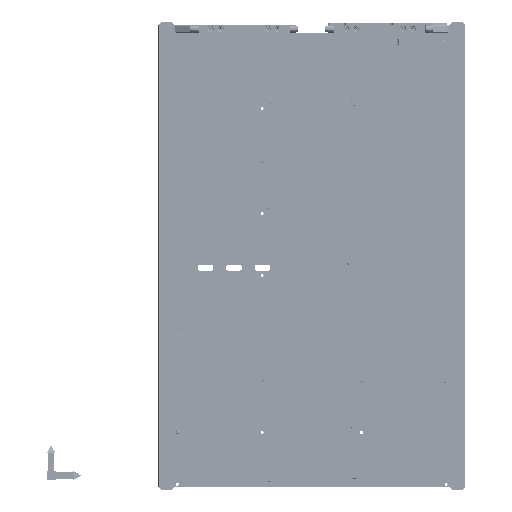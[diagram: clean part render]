
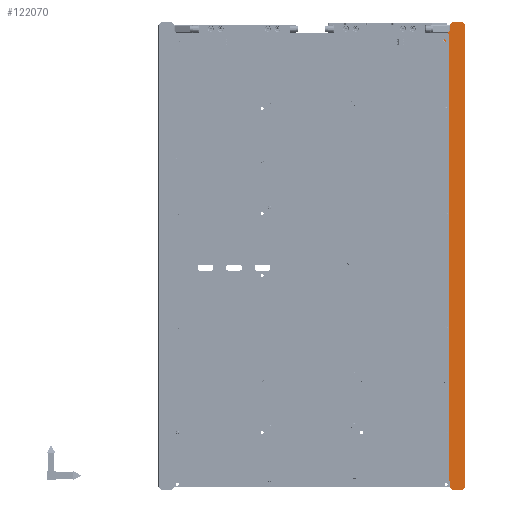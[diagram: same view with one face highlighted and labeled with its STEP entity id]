
A CAD part, front view. The second image highlights one B-rep face of the part: STEP entity #122070.
In plain terms, the highlighted planar face has unit normal (0, -1, 0).
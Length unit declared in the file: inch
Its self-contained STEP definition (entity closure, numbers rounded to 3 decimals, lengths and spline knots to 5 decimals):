
#13377 = VERTEX_POINT ( 'NONE', #328795 ) ;
#41864 = VERTEX_POINT ( 'NONE', #435685 ) ;
#42637 = DIRECTION ( 'NONE',  ( 1., 0., 0. ) ) ;
#44660 = DIRECTION ( 'NONE',  ( 0., -1., 0. ) ) ;
#46759 = CARTESIAN_POINT ( 'NONE',  ( 4.23622, 0., 6.96555 ) ) ;
#47928 = LINE ( 'NONE', #384273, #722709 ) ;
#69368 = ORIENTED_EDGE ( 'NONE', *, *, #140113, .F. ) ;
#78641 = CARTESIAN_POINT ( 'NONE',  ( 3.57874, 0., 6.84055 ) ) ;
#108656 = CIRCLE ( 'NONE', #181431, 0.125 ) ;
#118240 = VERTEX_POINT ( 'NONE', #78641 ) ;
#120825 = VERTEX_POINT ( 'NONE', #406234 ) ;
#122070 = ADVANCED_FACE ( 'NONE', ( #249959 ), #189670, .F. ) ;
#122776 = ORIENTED_EDGE ( 'NONE', *, *, #279407, .F. ) ;
#137634 = CARTESIAN_POINT ( 'NONE',  ( 4.62992, 0., -7.1852 ) ) ;
#140113 = EDGE_CURVE ( 'NONE', #747921, #523725, #267652, .T. ) ;
#145376 = VECTOR ( 'NONE', #585326, 39.37008 ) ;
#149621 = VERTEX_POINT ( 'NONE', #527049 ) ;
#157977 = CARTESIAN_POINT ( 'NONE',  ( 4.69685, 0., 7.11827 ) ) ;
#159996 = CARTESIAN_POINT ( 'NONE',  ( 4.62992, 0., 7.1852 ) ) ;
#165338 = ORIENTED_EDGE ( 'NONE', *, *, #324335, .F. ) ;
#177553 = VERTEX_POINT ( 'NONE', #46759 ) ;
#181431 = AXIS2_PLACEMENT_3D ( 'NONE', #346683, #833594, #416847 ) ;
#188255 = EDGE_CURVE ( 'NONE', #725481, #544133, #194235, .T. ) ;
#188468 = DIRECTION ( 'NONE',  ( 0.707, 0., -0.707 ) ) ;
#189670 = PLANE ( 'NONE',  #372926 ) ;
#189767 = CARTESIAN_POINT ( 'NONE',  ( 3.57874, 0., -6.84055 ) ) ;
#190037 = EDGE_CURVE ( 'NONE', #177553, #149621, #374110, .T. ) ;
#194235 = CIRCLE ( 'NONE', #731824, 0.62992 ) ;
#195624 = DIRECTION ( 'NONE',  ( 0., 1., 0. ) ) ;
#196626 = CARTESIAN_POINT ( 'NONE',  ( -4.70866, 0., 6.84055 ) ) ;
#208300 = ORIENTED_EDGE ( 'NONE', *, *, #740119, .F. ) ;
#216225 = DIRECTION ( 'NONE',  ( -0.707, 0., 0.707 ) ) ;
#228110 = VECTOR ( 'NONE', #683441, 39.37008 ) ;
#236444 = CARTESIAN_POINT ( 'NONE',  ( 4.23622, 0., 6.84055 ) ) ;
#241159 = LINE ( 'NONE', #703047, #426328 ) ;
#243225 = CARTESIAN_POINT ( 'NONE',  ( 4.23622, 0., -6.96555 ) ) ;
#246549 = EDGE_CURVE ( 'NONE', #621708, #544133, #669236, .T. ) ;
#249959 = FACE_OUTER_BOUND ( 'NONE', #551726, .T. ) ;
#253733 = LINE ( 'NONE', #893636, #417086 ) ;
#260150 = CARTESIAN_POINT ( 'NONE',  ( 4.11122, 0., 6.96555 ) ) ;
#267652 = LINE ( 'NONE', #675224, #844776 ) ;
#274789 = ORIENTED_EDGE ( 'NONE', *, *, #455147, .F. ) ;
#279407 = EDGE_CURVE ( 'NONE', #295504, #511000, #824519, .T. ) ;
#295504 = VERTEX_POINT ( 'NONE', #525285 ) ;
#308490 = CARTESIAN_POINT ( 'NONE',  ( 4.23622, 0., 6.84055 ) ) ;
#317661 = ORIENTED_EDGE ( 'NONE', *, *, #679119, .F. ) ;
#320437 = VERTEX_POINT ( 'NONE', #505299 ) ;
#321003 = ORIENTED_EDGE ( 'NONE', *, *, #246549, .T. ) ;
#324335 = EDGE_CURVE ( 'NONE', #523725, #295504, #253733, .T. ) ;
#328795 = CARTESIAN_POINT ( 'NONE',  ( 4.11122, 0., -6.84055 ) ) ;
#330139 = DIRECTION ( 'NONE',  ( 0., 0., -1. ) ) ;
#330425 = CIRCLE ( 'NONE', #413273, 0.125 ) ;
#335212 = DIRECTION ( 'NONE',  ( 0., 0., -1. ) ) ;
#342055 = VERTEX_POINT ( 'NONE', #438540 ) ;
#343597 = EDGE_CURVE ( 'NONE', #41864, #120825, #241159, .T. ) ;
#346683 = CARTESIAN_POINT ( 'NONE',  ( 4.11122, 0., -6.96555 ) ) ;
#363410 = ORIENTED_EDGE ( 'NONE', *, *, #760470, .F. ) ;
#367584 = EDGE_CURVE ( 'NONE', #725481, #13377, #809199, .T. ) ;
#372926 = AXIS2_PLACEMENT_3D ( 'NONE', #612331, #195624, #682444 ) ;
#374110 = LINE ( 'NONE', #308490, #145376 ) ;
#374698 = VECTOR ( 'NONE', #793310, 39.37008 ) ;
#384273 = CARTESIAN_POINT ( 'NONE',  ( -4.70866, 0., -7.1852 ) ) ;
#390569 = CARTESIAN_POINT ( 'NONE',  ( 3.57874, 0., 6.21063 ) ) ;
#392463 = CARTESIAN_POINT ( 'NONE',  ( -4.70866, 0., -6.84055 ) ) ;
#396554 = LINE ( 'NONE', #236444, #374698 ) ;
#398446 = DIRECTION ( 'NONE',  ( 0.707, 0., 0.707 ) ) ;
#400956 = LINE ( 'NONE', #693176, #607856 ) ;
#406234 = CARTESIAN_POINT ( 'NONE',  ( 4.23622, 0., -7.10646 ) ) ;
#413273 = AXIS2_PLACEMENT_3D ( 'NONE', #260150, #746984, #330139 ) ;
#414436 = ORIENTED_EDGE ( 'NONE', *, *, #675728, .F. ) ;
#415076 = EDGE_CURVE ( 'NONE', #13377, #445415, #108656, .T. ) ;
#416847 = DIRECTION ( 'NONE',  ( 0., 0., -1. ) ) ;
#417086 = VECTOR ( 'NONE', #683862, 39.37008 ) ;
#417233 = VECTOR ( 'NONE', #42637, 39.37008 ) ;
#426328 = VECTOR ( 'NONE', #216225, 39.37008 ) ;
#435685 = CARTESIAN_POINT ( 'NONE',  ( 4.31496, 0., -7.1852 ) ) ;
#438540 = CARTESIAN_POINT ( 'NONE',  ( 4.11122, 0., 6.84055 ) ) ;
#445415 = VERTEX_POINT ( 'NONE', #243225 ) ;
#455147 = EDGE_CURVE ( 'NONE', #342055, #177553, #330425, .T. ) ;
#458064 = LINE ( 'NONE', #605314, #621192 ) ;
#460502 = DIRECTION ( 'NONE',  ( 1., 0., 0. ) ) ;
#461406 = CARTESIAN_POINT ( 'NONE',  ( 3.57874, 0., -6.21063 ) ) ;
#470389 = ORIENTED_EDGE ( 'NONE', *, *, #190037, .F. ) ;
#472972 = ORIENTED_EDGE ( 'NONE', *, *, #560039, .F. ) ;
#478122 = DIRECTION ( 'NONE',  ( -0.707, 0., -0.707 ) ) ;
#505299 = CARTESIAN_POINT ( 'NONE',  ( 4.31496, 0., 7.1852 ) ) ;
#510459 = ORIENTED_EDGE ( 'NONE', *, *, #415076, .T. ) ;
#511000 = VERTEX_POINT ( 'NONE', #137634 ) ;
#523725 = VERTEX_POINT ( 'NONE', #157977 ) ;
#525285 = CARTESIAN_POINT ( 'NONE',  ( 4.69685, 0., -7.11827 ) ) ;
#527049 = CARTESIAN_POINT ( 'NONE',  ( 4.23622, 0., 7.10646 ) ) ;
#527752 = VECTOR ( 'NONE', #335212, 39.37008 ) ;
#531321 = DIRECTION ( 'NONE',  ( -1., 0., 0. ) ) ;
#542697 = ORIENTED_EDGE ( 'NONE', *, *, #367584, .T. ) ;
#544133 = VERTEX_POINT ( 'NONE', #681967 ) ;
#551726 = EDGE_LOOP ( 'NONE', ( #317661, #470389, #274789, #559390, #472972, #321003, #800291, #542697, #510459, #414436, #752211, #208300, #122776, #165338, #69368, #363410 ) ) ;
#559390 = ORIENTED_EDGE ( 'NONE', *, *, #690202, .F. ) ;
#560039 = EDGE_CURVE ( 'NONE', #621708, #118240, #689077, .T. ) ;
#577185 = CARTESIAN_POINT ( 'NONE',  ( 4.20866, 0., 6.21063 ) ) ;
#585326 = DIRECTION ( 'NONE',  ( 0., 0., 1. ) ) ;
#598269 = LINE ( 'NONE', #196626, #228110 ) ;
#605314 = CARTESIAN_POINT ( 'NONE',  ( 4.23622, 0., 7.10646 ) ) ;
#607856 = VECTOR ( 'NONE', #623079, 39.37008 ) ;
#612331 = CARTESIAN_POINT ( 'NONE',  ( -4.70866, 0., 6.84055 ) ) ;
#620554 = AXIS2_PLACEMENT_3D ( 'NONE', #390569, #877311, #460502 ) ;
#621192 = VECTOR ( 'NONE', #398446, 39.37008 ) ;
#621708 = VERTEX_POINT ( 'NONE', #577185 ) ;
#623079 = DIRECTION ( 'NONE',  ( 1., 0., 0. ) ) ;
#669236 = LINE ( 'NONE', #822009, #527752 ) ;
#675224 = CARTESIAN_POINT ( 'NONE',  ( 4.62992, 0., 7.1852 ) ) ;
#675728 = EDGE_CURVE ( 'NONE', #120825, #445415, #396554, .T. ) ;
#679119 = EDGE_CURVE ( 'NONE', #149621, #320437, #458064, .T. ) ;
#681967 = CARTESIAN_POINT ( 'NONE',  ( 4.20866, 0., -6.21063 ) ) ;
#682125 = CARTESIAN_POINT ( 'NONE',  ( 4.69685, 0., -7.11827 ) ) ;
#682444 = DIRECTION ( 'NONE',  ( -1., 0., 0. ) ) ;
#683441 = DIRECTION ( 'NONE',  ( 1., 0., 0. ) ) ;
#683862 = DIRECTION ( 'NONE',  ( 0., 0., -1. ) ) ;
#689077 = CIRCLE ( 'NONE', #620554, 0.62992 ) ;
#690202 = EDGE_CURVE ( 'NONE', #118240, #342055, #598269, .T. ) ;
#693176 = CARTESIAN_POINT ( 'NONE',  ( -4.70866, 0., 7.1852 ) ) ;
#703047 = CARTESIAN_POINT ( 'NONE',  ( 4.31496, 0., -7.1852 ) ) ;
#722709 = VECTOR ( 'NONE', #874015, 39.37008 ) ;
#725481 = VERTEX_POINT ( 'NONE', #189767 ) ;
#731824 = AXIS2_PLACEMENT_3D ( 'NONE', #461406, #44660, #531321 ) ;
#740119 = EDGE_CURVE ( 'NONE', #511000, #41864, #47928, .T. ) ;
#746984 = DIRECTION ( 'NONE',  ( 0., -1., 0. ) ) ;
#747921 = VERTEX_POINT ( 'NONE', #159996 ) ;
#752211 = ORIENTED_EDGE ( 'NONE', *, *, #343597, .F. ) ;
#760470 = EDGE_CURVE ( 'NONE', #320437, #747921, #400956, .T. ) ;
#793310 = DIRECTION ( 'NONE',  ( 0., 0., 1. ) ) ;
#800291 = ORIENTED_EDGE ( 'NONE', *, *, #188255, .F. ) ;
#802771 = VECTOR ( 'NONE', #478122, 39.37008 ) ;
#809199 = LINE ( 'NONE', #392463, #417233 ) ;
#822009 = CARTESIAN_POINT ( 'NONE',  ( 4.20866, 0., 6.84055 ) ) ;
#824519 = LINE ( 'NONE', #682125, #802771 ) ;
#833594 = DIRECTION ( 'NONE',  ( 0., 1., 0. ) ) ;
#844776 = VECTOR ( 'NONE', #188468, 39.37008 ) ;
#874015 = DIRECTION ( 'NONE',  ( -1., 0., 0. ) ) ;
#877311 = DIRECTION ( 'NONE',  ( 0., -1., 0. ) ) ;
#893636 = CARTESIAN_POINT ( 'NONE',  ( 4.69685, 0., 6.84055 ) ) ;
